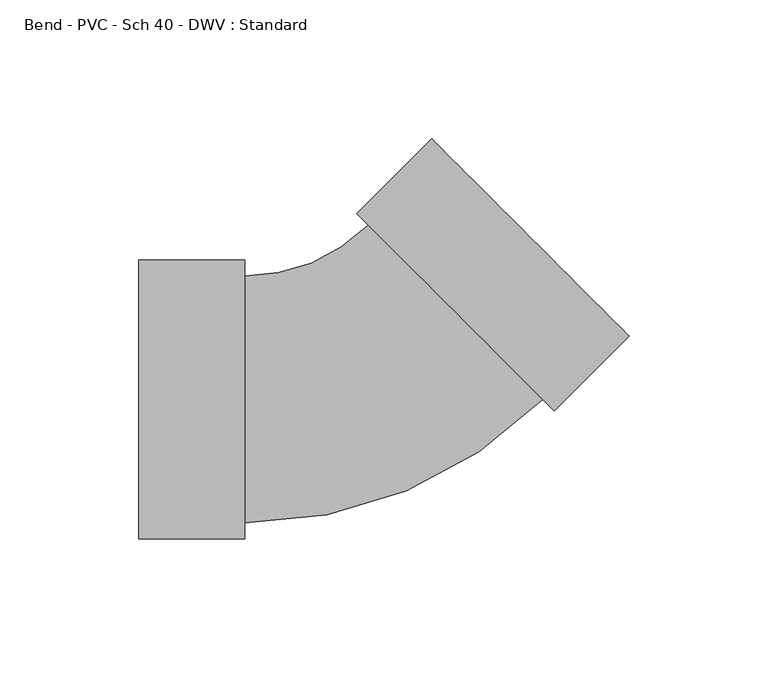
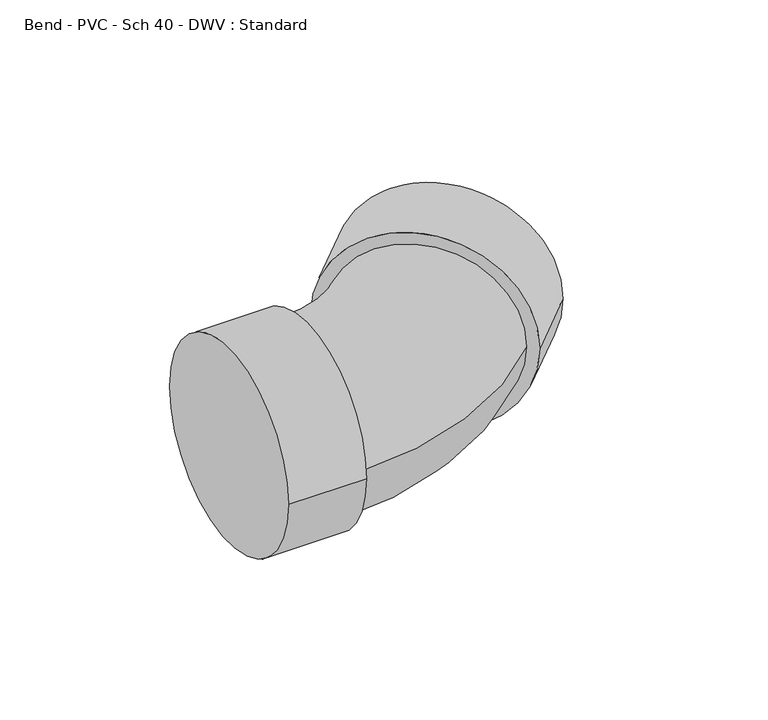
"""IFC4 building model written with IfcOpenShell, lengths in millimetres: pipe fitting geometry, Bend - PVC - Sch 40 - DWV : Standard."""

from ifc_helpers import new_model, si_unit, point, frame, origin, place, context, project, spatial, circle_curve, ellipse_curve, trimmed, source, transform, mapped, element, save
from ifc_brep_helpers import plane_surface, cylinder_surface, revolved_surface, advanced_brep


def bend_pvc_sch_40_dwv_standard_d92d3862(model_context):
    return source(origin(), model_context, "Body", "AdvancedBrep", [
        advanced_brep(
        [(-82.55, -50.2666, 0.0), (-82.55, 50.2666, 0.0), (-44.45, -50.2666, 0.0), (-44.45, 50.2666, 0.0), (-44.45, -44.45, 0.0), (-44.45, 44.45, 0.0), (0.0028278, 62.8617928, 0.0), (62.8617928, -0.0028278, 0.0), (66.9745651, -4.1159701, 0.0), (-4.1099445, 66.9749351, 0.0), (93.9165453, 22.8235863, 0.0), (22.8320358, 93.9144915, 0.0)],
        [
            (0, 1, circle_curve(frame((-82.55, 0.0, 0.0), z_axis=(-1.0, 0.0, 0.0), x_axis=(0.0, 1.0, 0.0)), 50.2666)),
            (1, 0, circle_curve(frame((-82.55, 0.0, 0.0), z_axis=(-1.0, 0.0, 0.0), x_axis=(0.0, 1.0, 0.0)), 50.2666)),
            (2, 3, circle_curve(frame((-44.45, 0.0, 0.0), z_axis=(1.0, 0.0, 0.0), x_axis=(0.0, 1.0, 0.0)), 50.2666)),
            (3, 2, circle_curve(frame((-44.45, 0.0, 0.0), z_axis=(1.0, 0.0, 0.0), x_axis=(0.0, 1.0, 0.0)), 50.2666)),
            (4, 5, circle_curve(frame((-44.45, 0.0, 0.0), z_axis=(-1.0, 0.0, 0.0), x_axis=(0.0, 1.0, 0.0)), 44.45)),
            (5, 4, circle_curve(frame((-44.45, 0.0, 0.0), z_axis=(-1.0, 0.0, 0.0), x_axis=(0.0, 1.0, 0.0)), 44.45)),
            (0, 2),
            (3, 1),
            (6, 5, circle_curve(frame((-44.45, 107.3186202, 0.0), z_axis=(0.0, 0.0, -1.0), x_axis=(0.0, -1.0, 0.0)), 62.8686202)),
            (4, 7, circle_curve(frame((-44.45, 107.3186202, 0.0), z_axis=(0.0, 0.0, 1.0), x_axis=(0.0, -1.0, 0.0)), 151.7686202)),
            (7, 6, circle_curve(frame((31.4323103, 31.4294825, 0.0), z_axis=(-0.7071385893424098, -0.7070749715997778, 0.0), x_axis=(-0.7070749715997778, 0.7071385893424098, 0.0)), 44.45)),
            (6, 7, circle_curve(frame((31.4323103, 31.4294825, 0.0), z_axis=(-0.7071385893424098, -0.7070749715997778, 0.0), x_axis=(-0.7070749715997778, 0.7071385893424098, 0.0)), 44.45)),
            (8, 9, circle_curve(frame((31.4323103, 31.4294825, 0.0), z_axis=(-0.7071385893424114, -0.7070749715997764, 0.0), x_axis=(-0.7070749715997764, 0.7071385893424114, 0.0)), 50.2666)),
            (9, 8, circle_curve(frame((31.4323103, 31.4294825, 0.0), z_axis=(-0.7071385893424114, -0.7070749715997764, 0.0), x_axis=(-0.7070749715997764, 0.7071385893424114, 0.0)), 50.2666)),
            (10, 11, circle_curve(frame((58.3742906, 58.3690389, 0.0), z_axis=(0.7071385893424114, 0.7070749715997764, 0.0), x_axis=(-0.7070749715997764, 0.7071385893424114, 0.0)), 50.2666)),
            (11, 10, circle_curve(frame((58.3742906, 58.3690389, 0.0), z_axis=(0.7071385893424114, 0.7070749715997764, 0.0), x_axis=(-0.7070749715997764, 0.7071385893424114, 0.0)), 50.2666)),
            (8, 10),
            (11, 9),
        ],
        [
            plane_surface(frame((-82.55, 0.0, 0.0), z_axis=(-1.0, 0.0, 0.0), x_axis=(0.0, 0.0, 1.0))),
            plane_surface(frame((-44.45, 0.0, 0.0), z_axis=(1.0, 0.0, 0.0), x_axis=(0.0, 0.0, 1.0))),
            cylinder_surface(frame((-82.55, 0.0, 0.0), z_axis=(-1.0, 0.0, 0.0), x_axis=(0.0, 1.0, 0.0)), 50.2666),
            revolved_surface(trimmed(ellipse_curve(frame((-44.45, 0.0, 0.0), z_axis=(-1.0, 0.0, 0.0), x_axis=(0.0, 1.0, 0.0)), 44.45, 44.45), [point((-44.45, -44.45, 0.0))], [point((-44.45, 44.45, 0.0))], True, "CARTESIAN"), (-44.45, 107.3186202, 0.0), (0.0, 0.0, 1.0)),
            revolved_surface(trimmed(ellipse_curve(frame((-44.45, 0.0, 0.0), z_axis=(-1.0, 0.0, 0.0), x_axis=(0.0, 1.0, 0.0)), 44.45, 44.45), [point((-44.45, 44.45, 0.0))], [point((-44.45, -44.45, 0.0))], True, "CARTESIAN"), (-44.45, 107.3186202, 0.0), (0.0, 0.0, 1.0)),
            plane_surface(frame((31.4323103, 31.4294825, 0.0), z_axis=(-0.7071385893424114, -0.7070749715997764, 0.0), x_axis=(0.0, 0.0, 1.0))),
            plane_surface(frame((58.3742906, 58.3690389, 0.0), z_axis=(0.7071385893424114, 0.7070749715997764, 0.0), x_axis=(0.0, 0.0, 1.0))),
            cylinder_surface(frame((31.4323103, 31.4294825, 0.0), z_axis=(-0.7071385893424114, -0.7070749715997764, 0.0), x_axis=(-0.7070749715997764, 0.7071385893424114, 0.0)), 50.2666),
        ],
        [
            (0, [[1, 2]]),
            (1, [[3, 4], [5, 6]]),
            (2, [[-1, 7, -4, 8]]),
            (2, [[-2, -8, -3, -7]]),
            (3, [[9, -5, 10, 11]]),
            (4, [[-9, 12, -10, -6]]),
            (5, [[13, 14], [-11, -12]]),
            (6, [[15, 16]]),
            (7, [[-13, 17, -16, 18]]),
            (7, [[-14, -18, -15, -17]]),
        ],
    ),
    ])


if __name__ == "__main__":
    model = new_model("IFC4")
    model_context = context("Model", 3, world=origin())
    ifc_project = project(units=[si_unit("LENGTHUNIT", "METRE", prefix="MILLI")], contexts=[model_context])
    site = spatial("IfcSite", under=ifc_project)
    building = spatial("IfcBuilding", under=site)
    placement = place(None, origin())
    bend_pvc_sch_40_dwv_standard_shape = bend_pvc_sch_40_dwv_standard_d92d3862(model_context)
    element("IfcPipeFitting", 1, ObjectType="Bend - PVC - Sch 40 - DWV : Standard", at=placement, inside=building, context=model_context, shape_type="MappedRepresentation", body=[
        mapped(bend_pvc_sch_40_dwv_standard_shape, transform((0.0, 0.0, 0.0), x_axis=(1.0, 0.0, 0.0), y_axis=(0.0, 1.0, 0.0), z_axis=(0.0, 0.0, 1.0))),
    ])
    save(model, "model.ifc")
